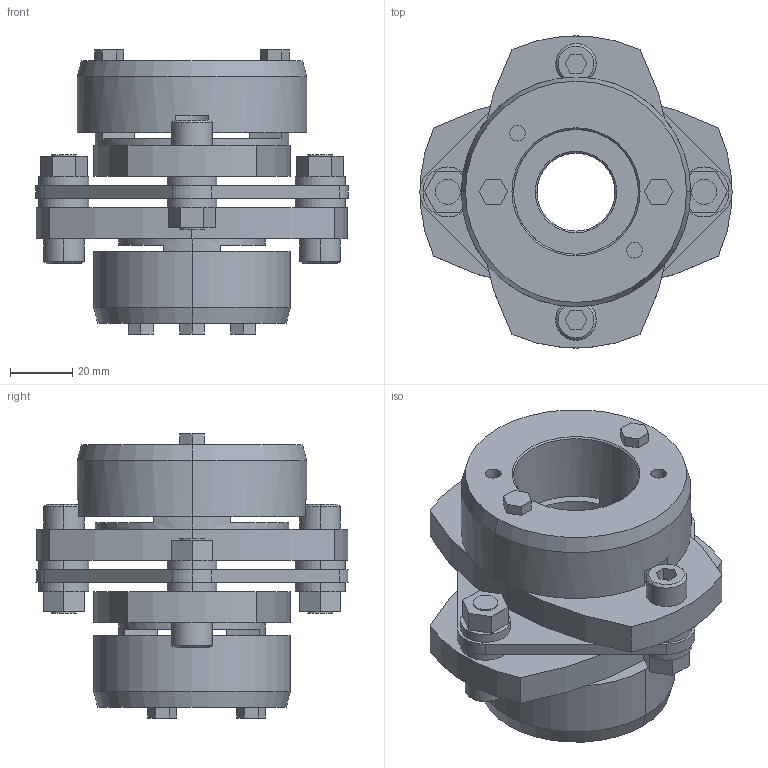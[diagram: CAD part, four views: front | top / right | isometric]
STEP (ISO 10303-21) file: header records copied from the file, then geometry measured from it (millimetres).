
FILE_DESCRIPTION((''),'2;1');
FILE_NAME('LCS-100T7-25×40.stp','2011-09-08T17:18:00',(''),(''),'AutoCAD STEP 2000i','AutoCAD 2000i',', , ');
FILE_SCHEMA(('CONFIG_CONTROL_DESIGN'));
Length unit declared in the file: millimetre
Products named in the file (10): LCS-100T7-25×38; 忣兜1; LC100T7-T038; LC100T7-T035; LC100T7-T030; LC100T7-T025-1; LC100T7-T025; LC100T7-T022-1; LC100T7-T022; LCS100-ITA
Assembly tree (9 placements, depth 2):
  LCS-100T7-25×38
    忣兜1
    LC100T7-T038
    LC100T7-T035
    LC100T7-T030
    LC100T7-T025-1
    LC100T7-T025
    LC100T7-T022-1
    LC100T7-T022
    LCS100-ITA
Bounding box: 100 x 99.93 x 91 mm (x, y, z)
Volume: 254744.2 mm3; surface area: 64126.8 mm2
Topology: 1 solids, 1 shells, 229 faces, 562 edges, 368 vertices
Faces by surface type: plane 127, cylinder 82, cone 20
Entity records: 7037 total; most frequent: DIRECTION 1244, CARTESIAN_POINT 1169, ORIENTED_EDGE 1124, EDGE_CURVE 562, AXIS2_PLACEMENT_3D 443, VERTEX_POINT 368, VECTOR 358, LINE 358
